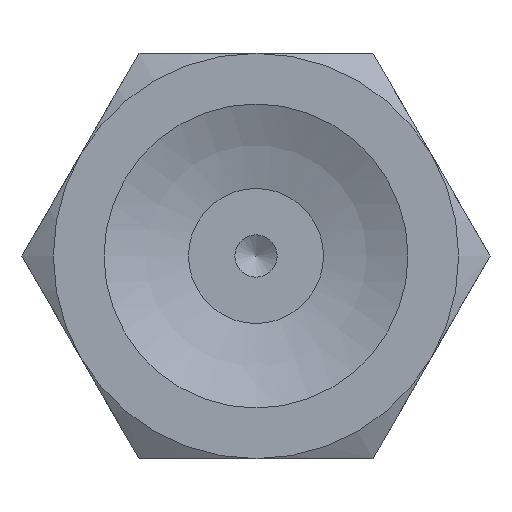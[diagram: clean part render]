
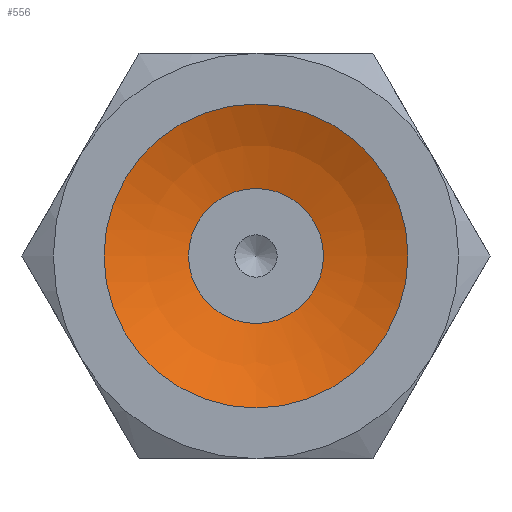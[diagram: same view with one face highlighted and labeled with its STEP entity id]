
A CAD part, front view. The second image highlights one B-rep face of the part: STEP entity #556.
In plain terms, the highlighted spherical face has radius 10.203 mm.
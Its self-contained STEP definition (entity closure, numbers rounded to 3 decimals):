
#556=ADVANCED_FACE('',(#818,#819),#820,.F.);
#818=FACE_OUTER_BOUND('',#1115,.T.);
#819=FACE_OUTER_BOUND('',#1116,.T.);
#820=SPHERICAL_SURFACE('',#1117,10.203);
#1115=EDGE_LOOP('',(#1823));
#1116=EDGE_LOOP('',(#1824));
#1117=AXIS2_PLACEMENT_3D('',#1825,#1826,#1827);
#1823=ORIENTED_EDGE('',*,*,#2091,.T.);
#1824=ORIENTED_EDGE('',*,*,#2092,.F.);
#1825=CARTESIAN_POINT('',(0.,-9.157,0.));
#1826=DIRECTION('',(0.0,-1.0,0.));
#1827=DIRECTION('',(1.0,0.0,0.0));
#2091=EDGE_CURVE('',#2403,#2403,#2404,.T.);
#2092=EDGE_CURVE('',#2405,#2405,#2406,.T.);
#2403=VERTEX_POINT('',#3297);
#2404=CIRCLE('',#3298,4.5);
#2405=VERTEX_POINT('',#3299);
#2406=CIRCLE('',#3300,2.);
#3297=CARTESIAN_POINT('',(0.0,0.,-4.5));
#3298=AXIS2_PLACEMENT_3D('',#3592,#3593,#3594);
#3299=CARTESIAN_POINT('',(0.0,0.848,-2.));
#3300=AXIS2_PLACEMENT_3D('',#3595,#3596,#3597);
#3592=CARTESIAN_POINT('',(0.0,0.,0.0));
#3593=DIRECTION('',(0.0,-1.0,0.));
#3594=DIRECTION('',(0.0,0.,-1.0));
#3595=CARTESIAN_POINT('',(0.0,0.848,0.0));
#3596=DIRECTION('',(0.0,-1.0,0.));
#3597=DIRECTION('',(0.0,0.,-1.0));
